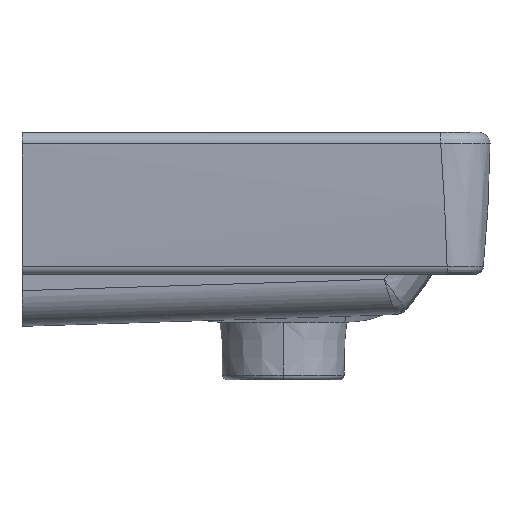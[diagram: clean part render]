
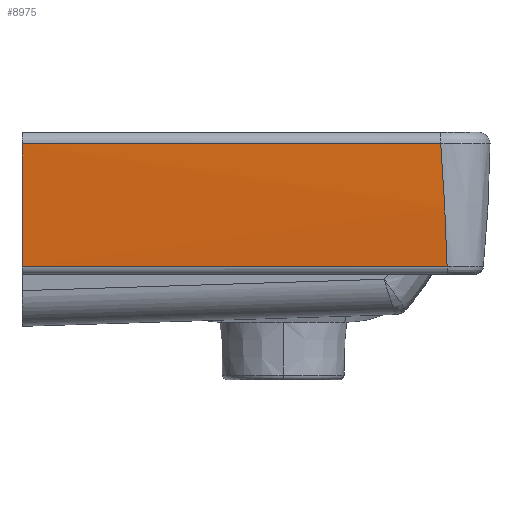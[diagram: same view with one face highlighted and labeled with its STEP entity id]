
A CAD part, front view. The second image highlights one B-rep face of the part: STEP entity #8975.
In plain terms, the highlighted free-form (B-spline) face has degree [3, 1] with [4, 2] control points.
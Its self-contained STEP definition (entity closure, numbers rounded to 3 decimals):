
#8549=CARTESIAN_POINT('Vertex',(97.848,-265.078,22.497)) ;
#8650=CARTESIAN_POINT('Vertex',(94.044,-269.108,95.938)) ;
#8654=CARTESIAN_POINT('Control Point',(94.044,-269.108,95.938)) ;
#8655=CARTESIAN_POINT('Control Point',(94.984,-268.997,83.386)) ;
#8656=CARTESIAN_POINT('Control Point',(95.775,-268.592,70.841)) ;
#8657=CARTESIAN_POINT('Control Point',(96.417,-267.89,58.304)) ;
#8658=CARTESIAN_POINT('Vertex',(96.416,-267.89,58.304)) ;
#8662=CARTESIAN_POINT('Control Point',(96.417,-267.89,58.304)) ;
#8663=CARTESIAN_POINT('Control Point',(97.028,-267.222,46.361)) ;
#8664=CARTESIAN_POINT('Control Point',(97.505,-266.285,34.425)) ;
#8665=CARTESIAN_POINT('Control Point',(97.848,-265.078,22.497)) ;
#8913=CARTESIAN_POINT('Line Origine',(-15.882,-269.108,95.938)) ;
#8917=CARTESIAN_POINT('Vertex',(-156.,-269.108,95.938)) ;
#8933=CARTESIAN_POINT('Control Point',(97.848,-265.078,22.497)) ;
#8934=CARTESIAN_POINT('Control Point',(-156.,-265.078,22.497)) ;
#8935=CARTESIAN_POINT('Control Point',(97.848,-267.546,46.89)) ;
#8936=CARTESIAN_POINT('Control Point',(-156.,-267.546,46.89)) ;
#8937=CARTESIAN_POINT('Control Point',(97.848,-268.892,71.423)) ;
#8938=CARTESIAN_POINT('Control Point',(-156.,-268.892,71.423)) ;
#8939=CARTESIAN_POINT('Control Point',(97.848,-269.108,95.938)) ;
#8940=CARTESIAN_POINT('Control Point',(-156.,-269.108,95.938)) ;
#8942=CARTESIAN_POINT('Control Point',(-156.,-269.108,95.938)) ;
#8943=CARTESIAN_POINT('Control Point',(-156.,-269.091,93.962)) ;
#8944=CARTESIAN_POINT('Control Point',(-156.,-269.067,91.996)) ;
#8945=CARTESIAN_POINT('Control Point',(-156.,-269.038,90.019)) ;
#8946=CARTESIAN_POINT('Control Point',(-156.,-268.904,82.649)) ;
#8947=CARTESIAN_POINT('Control Point',(-156.,-268.686,75.279)) ;
#8948=CARTESIAN_POINT('Control Point',(-156.,-268.482,69.932)) ;
#8949=CARTESIAN_POINT('Control Point',(-156.,-267.893,57.222)) ;
#8950=CARTESIAN_POINT('Control Point',(-156.,-267.05,44.526)) ;
#8951=CARTESIAN_POINT('Control Point',(-156.,-266.478,37.174)) ;
#8952=CARTESIAN_POINT('Control Point',(-156.,-265.82,29.831)) ;
#8953=CARTESIAN_POINT('Control Point',(-156.,-265.078,22.497)) ;
#8954=CARTESIAN_POINT('Vertex',(-156.,-265.078,22.497)) ;
#8958=CARTESIAN_POINT('Control Point',(97.848,-265.078,22.497)) ;
#8959=CARTESIAN_POINT('Control Point',(47.579,-265.078,22.497)) ;
#8960=CARTESIAN_POINT('Control Point',(-2.691,-265.078,22.497)) ;
#8961=CARTESIAN_POINT('Control Point',(-52.961,-265.078,22.497)) ;
#8962=CARTESIAN_POINT('Control Point',(-103.73,-265.078,22.497)) ;
#8963=CARTESIAN_POINT('Control Point',(-154.5,-265.078,22.497)) ;
#8964=CARTESIAN_POINT('Control Point',(-155.,-265.078,22.497)) ;
#8965=CARTESIAN_POINT('Control Point',(-155.5,-265.078,22.497)) ;
#8966=CARTESIAN_POINT('Control Point',(-156.,-265.078,22.497)) ;
#8914=DIRECTION('Vector Direction',(1.,0.,0.)) ;
#8969=ORIENTED_EDGE('',*,*,#8666,.T.) ;
#8970=ORIENTED_EDGE('',*,*,#8660,.T.) ;
#8971=ORIENTED_EDGE('',*,*,#8919,.T.) ;
#8972=ORIENTED_EDGE('',*,*,#8956,.T.) ;
#8973=ORIENTED_EDGE('',*,*,#8967,.F.) ;
#8915=VECTOR('Line Direction',#8914,1.) ;
#8975=ADVANCED_FACE('Hauptk\X2\00F6\X0\rper',(#8974),#8932,.T.) ;
#8653=B_SPLINE_CURVE_WITH_KNOTS('',3,(#8654,#8655,#8656,#8657),.UNSPECIFIED.,.F.,.U.,(4,4),(0.,37.719),.UNSPECIFIED.) ;
#8661=B_SPLINE_CURVE_WITH_KNOTS('',3,(#8662,#8663,#8664,#8665),.UNSPECIFIED.,.F.,.U.,(4,4),(37.719,73.652),.UNSPECIFIED.) ;
#8941=B_SPLINE_CURVE_WITH_KNOTS('',5,(#8942,#8943,#8944,#8945,#8946,#8947,#8948,#8949,#8950,#8951,#8952,#8953),.UNSPECIFIED.,.F.,.U.,(6,3,3,6),(10.1,24.406,62.242,114.384),.UNSPECIFIED.) ;
#8932=B_SPLINE_SURFACE_WITH_KNOTS('',3,1,((#8933,#8934),(#8935,#8936),(#8937,#8938),(#8939,#8940)),.UNSPECIFIED.,.F.,.F.,.U.,(4,4),(2,2),(2.269,75.874),(1.559,255.408),.UNSPECIFIED.) ;
#8660=EDGE_CURVE('',#8659,#8651,#8653,.F.) ;
#8666=EDGE_CURVE('',#8550,#8659,#8661,.F.) ;
#8919=EDGE_CURVE('',#8651,#8918,#8916,.F.) ;
#8956=EDGE_CURVE('',#8918,#8955,#8941,.T.) ;
#8967=EDGE_CURVE('',#8550,#8955,#8957,.T.) ;
#8968=EDGE_LOOP('',(#8969,#8970,#8971,#8972,#8973)) ;
#8974=FACE_OUTER_BOUND('',#8968,.T.) ;
#8916=LINE('Line',#8913,#8915) ;
#8550=VERTEX_POINT('',#8549) ;
#8651=VERTEX_POINT('',#8650) ;
#8659=VERTEX_POINT('',#8658) ;
#8918=VERTEX_POINT('',#8917) ;
#8955=VERTEX_POINT('',#8954) ;
#8957=(BOUNDED_CURVE()B_SPLINE_CURVE(5,(#8958,#8959,#8960,#8961,#8962,#8963,#8964,#8965,#8966),.UNSPECIFIED.,.F.,.U.)B_SPLINE_CURVE_WITH_KNOTS((6,3,6),(1.559,252.908,255.408),.UNSPECIFIED.)CURVE()GEOMETRIC_REPRESENTATION_ITEM()RATIONAL_B_SPLINE_CURVE((1.,1.,1.,1.,1.,1.,1.,1.,1.))REPRESENTATION_ITEM('')) ;
